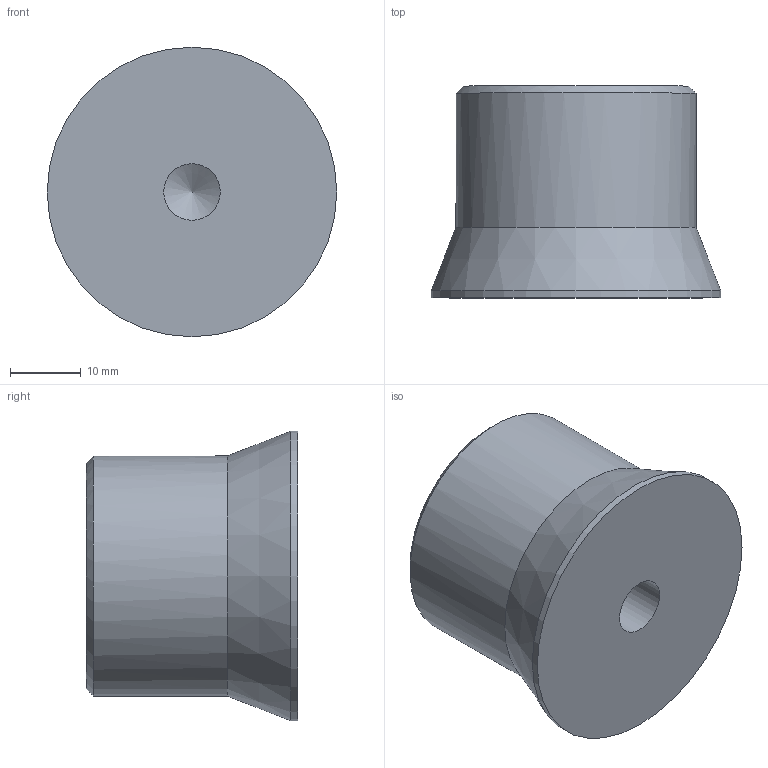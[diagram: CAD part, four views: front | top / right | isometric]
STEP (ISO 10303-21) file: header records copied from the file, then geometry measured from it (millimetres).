
FILE_DESCRIPTION( ( 'STEP AP203' ), '1' );
FILE_NAME( 'C:/Temp/Ganter_Step_05_03_2020/data/1_4/gn_726_2/gn_726_2_s/gn_726_2_s_2/Control knob GN 726.2-34-Z8-S-2.stp', '2020-03-05T10:50:07', ( 'License CC BY-ND 4.0' ), ( 'CADENAS' ), ' ', 'PARTsolutions', ' ' );
FILE_SCHEMA( ( 'CONFIG_CONTROL_DESIGN' ) );
Length unit declared in the file: millimetre
Products named in the file (1): _Control knob GN 726.2-34-Z8-S-2
Bounding box: 41 x 30 x 41 mm (x, y, z)
Volume: 28107 mm3; surface area: 6090.2 mm2
Topology: 1 solids, 1 shells, 104 faces, 298 edges, 197 vertices
Faces by surface type: cylinder 74, plane 26, cone 4
Full cylindrical faces by diameter (mm): 8 x1, 34 x1, 41 x1
Entity records: 3722 total; most frequent: CARTESIAN_POINT 1064, ORIENTED_EDGE 580, DIRECTION 507, EDGE_CURVE 290, VERTEX_POINT 197, AXIS2_PLACEMENT_3D 195, LINE 117, VECTOR 117
